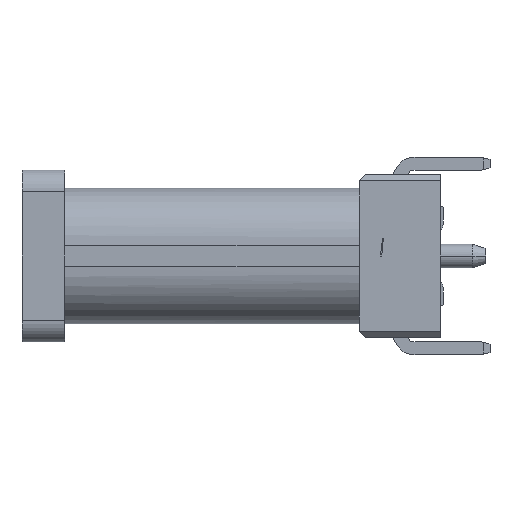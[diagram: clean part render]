
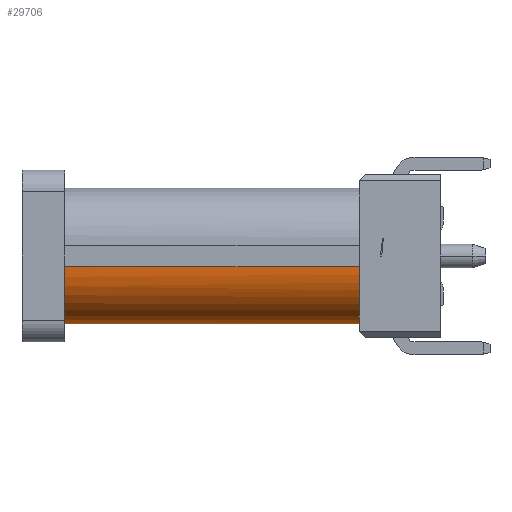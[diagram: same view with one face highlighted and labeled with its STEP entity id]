
A CAD part, left-side view. The second image highlights one B-rep face of the part: STEP entity #29706.
In plain terms, the highlighted cylindrical face has radius 1.33 mm (diameter 2.66 mm), a partial arc.
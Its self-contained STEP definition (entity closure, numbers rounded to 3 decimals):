
#4625=CARTESIAN_POINT('',(21.765,7.2,-17.75));
#4626=DIRECTION('',(0.,1.,0.));
#4627=DIRECTION('',(0.,0.,-1.));
#4628=AXIS2_PLACEMENT_3D('',#4625,#4626,#4627);
#4630=CARTESIAN_POINT('',(21.765,7.2,-17.75));
#4631=DIRECTION('',(0.,1.,0.));
#4632=DIRECTION('',(-0.759,0.,-0.651));
#4633=AXIS2_PLACEMENT_3D('',#4630,#4631,#4632);
#4703=CARTESIAN_POINT('',(21.765,7.2,-17.75));
#4704=DIRECTION('',(0.,1.,0.));
#4705=DIRECTION('',(-0.049,0.,-0.999));
#4706=AXIS2_PLACEMENT_3D('',#4703,#4704,#4705);
#4712=DIRECTION('',(0.,1.,0.));
#4713=VECTOR('',#4712,6.85);
#4714=CARTESIAN_POINT('',(21.765,7.2,-19.08));
#4715=LINE('',#4714,#4713);
#4716=DIRECTION('',(0.,-1.,0.));
#4717=VECTOR('',#4716,6.85);
#4718=CARTESIAN_POINT('',(20.435,14.05,-17.75));
#4719=LINE('',#4718,#4717);
#6635=CARTESIAN_POINT('',(21.765,14.05,-17.75));
#6636=DIRECTION('',(0.,-1.,0.));
#6637=DIRECTION('',(-1.,0.,0.));
#6638=AXIS2_PLACEMENT_3D('',#6635,#6636,#6637);
#22527=CARTESIAN_POINT('',(20.435,7.2,
-17.75));
#22529=VERTEX_POINT('',#22527);
#22861=CARTESIAN_POINT('',(21.765,7.2,
-19.08));
#22863=VERTEX_POINT('',#22861);
#22904=CARTESIAN_POINT('',(21.765,14.05,
-19.08));
#22905=VERTEX_POINT('',#22904);
#23087=CARTESIAN_POINT('',(20.435,14.05,
-17.75));
#23088=VERTEX_POINT('',#23087);
#23279=CARTESIAN_POINT('',(20.755,7.2,
-18.615));
#23281=VERTEX_POINT('',#23279);
#23315=CARTESIAN_POINT('',(21.7,7.2,
-19.078));
#23317=VERTEX_POINT('',#23315);
#29690=CARTESIAN_POINT('',(21.765,15.7,
-17.75));
#29691=DIRECTION('',(0.,1.,0.));
#29692=DIRECTION('',(-1.,0.,0.));
#29693=AXIS2_PLACEMENT_3D('',#29690,#29691,#29692);
#29694=CYLINDRICAL_SURFACE('',#29693,1.33);
#29695=ORIENTED_EDGE('',*,*,#29681,.F.);
#29696=ORIENTED_EDGE('',*,*,#29598,.F.);
#29698=ORIENTED_EDGE('',*,*,#29697,.T.);
#29700=ORIENTED_EDGE('',*,*,#29699,.F.);
#29702=ORIENTED_EDGE('',*,*,#29701,.T.);
#29703=ORIENTED_EDGE('',*,*,#29609,.F.);
#29704=EDGE_LOOP('',(#29695,#29696,#29698,#29700,#29702,#29703));
#29705=FACE_OUTER_BOUND('',#29704,.F.);
#4629=CIRCLE('',#4628,1.33);
#4634=CIRCLE('',#4633,1.33);
#4707=CIRCLE('',#4706,1.33);
#6639=CIRCLE('',#6638,1.33);
#29598=EDGE_CURVE('',#22863,#23317,#4629,.T.);
#29609=EDGE_CURVE('',#23281,#22529,#4634,.T.);
#29681=EDGE_CURVE('',#23317,#23281,#4707,.T.);
#29697=EDGE_CURVE('',#22863,#22905,#4715,.T.);
#29699=EDGE_CURVE('',#23088,#22905,#6639,.T.);
#29701=EDGE_CURVE('',#23088,#22529,#4719,.T.);
#29706=ADVANCED_FACE('',(#29705),#29694,.T.);
